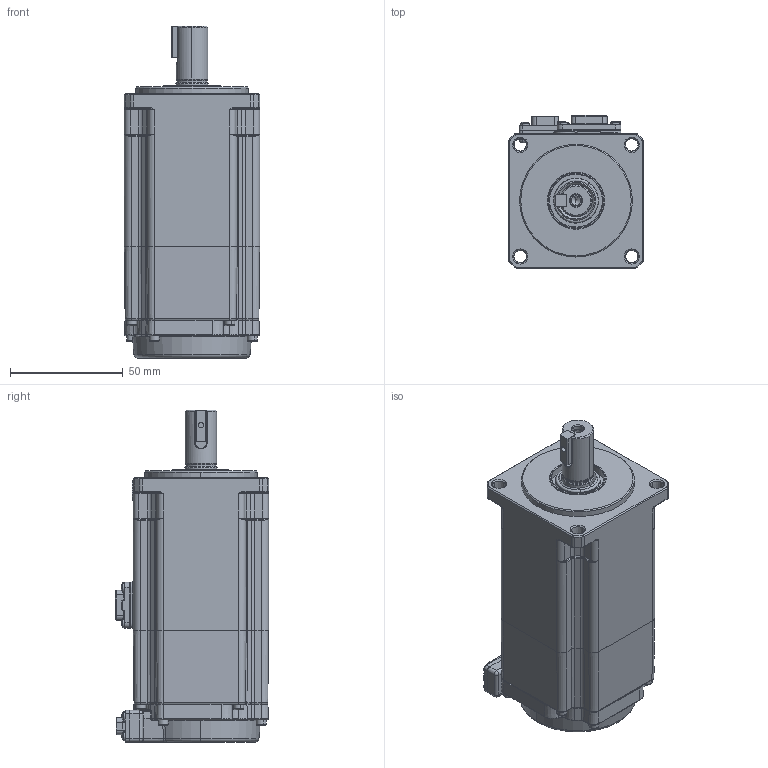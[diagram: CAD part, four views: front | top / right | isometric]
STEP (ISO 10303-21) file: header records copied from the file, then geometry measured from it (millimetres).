
FILE_DESCRIPTION (( 'STEP AP214' ), '1' );
FILE_NAME ('60-400W-衄蚐猾衄秶雄ん(RSK1-H060A04B30E).STEP', '2024-09-06T10:57:35', ( '' ), ( '' ), 'SwSTEP 2.0', 'SolidWorks 2020', '' );
FILE_SCHEMA (( 'AUTOMOTIVE_DESIGN' ));
Length unit declared in the file: millimetre
Products named in the file (12): 60-400W-衄蚐猾衄秶雄ん(RSK1-H060A04B30E); 60楊擘粣; 3220000001_蚐猾_TC15x25x4(NBR); 2181000001_綴裔_RSK1-H060A04B30S36; 3231000003_勾板螺丝型6pin连接器插座_GAMC3063; 2142000001_儂褲禱矗_RSK1-H060A04B30S36; 3130000001_す瑩_B5x5x14(GBT1096-2003 湍れ瑩蹟謂M3); 3111000002_内六角圆柱头螺钉_M2.5x40(GBT70.1-2000 锌镍合金 黑色 耐落 12.9级）; 2174000002_綴傷裔禱矗_RSK1-H060A04B30E36; 苤萇儂晤鎢傷赽; 3114000001_十字槽盘头自挤螺钉_M2x5(GBT6560-2014 锌镍合金 黑色); 3111000001_内六角圆柱头螺钉_M2.5x10(GBT70.1-2000 锌镍合金 黑色 耐落 12.9级）
Assembly tree (24 placements, depth 2):
  60-400W-衄蚐猾衄秶雄ん(RSK1-H060A04B30E)
    2142000001_儂褲禱矗_RSK1-H060A04B30S36
    2174000002_綴傷裔禱矗_RSK1-H060A04B30E36
    2181000001_綴裔_RSK1-H060A04B30S36
    3231000003_勾板螺丝型6pin连接器插座_GAMC3063
    苤萇儂晤鎢傷赽
    60楊擘粣
    3220000001_蚐猾_TC15x25x4(NBR)
    3130000001_す瑩_B5x5x14(GBT1096-2003 湍れ瑩蹟謂M3)
    3111000001_内六角圆柱头螺钉_M2.5x10(GBT70.1-2000 锌镍合金 黑色 耐落 12.9级）  x4
    3114000001_十字槽盘头自挤螺钉_M2x5(GBT6560-2014 锌镍合金 黑色)  x8
    3111000002_内六角圆柱头螺钉_M2.5x40(GBT70.1-2000 锌镍合金 黑色 耐落 12.9级）  x4
Bounding box: 60 x 67.9 x 147.2 mm (x, y, z)
Volume: 310203.6 mm3; surface area: 70075 mm2
Topology: 28 solids, 28 shells, 3032 faces, 7729 edges, 4845 vertices
Faces by surface type: plane 1436, cylinder 678, cone 308, bspline 307, torus 262, sphere 41
Entity records: 99804 total; most frequent: CARTESIAN_POINT 27349, ORIENTED_EDGE 13626, DIRECTION 12446, EDGE_CURVE 6813, VERTEX_POINT 4295, AXIS2_PLACEMENT_3D 4257, LINE 3932, VECTOR 3932
